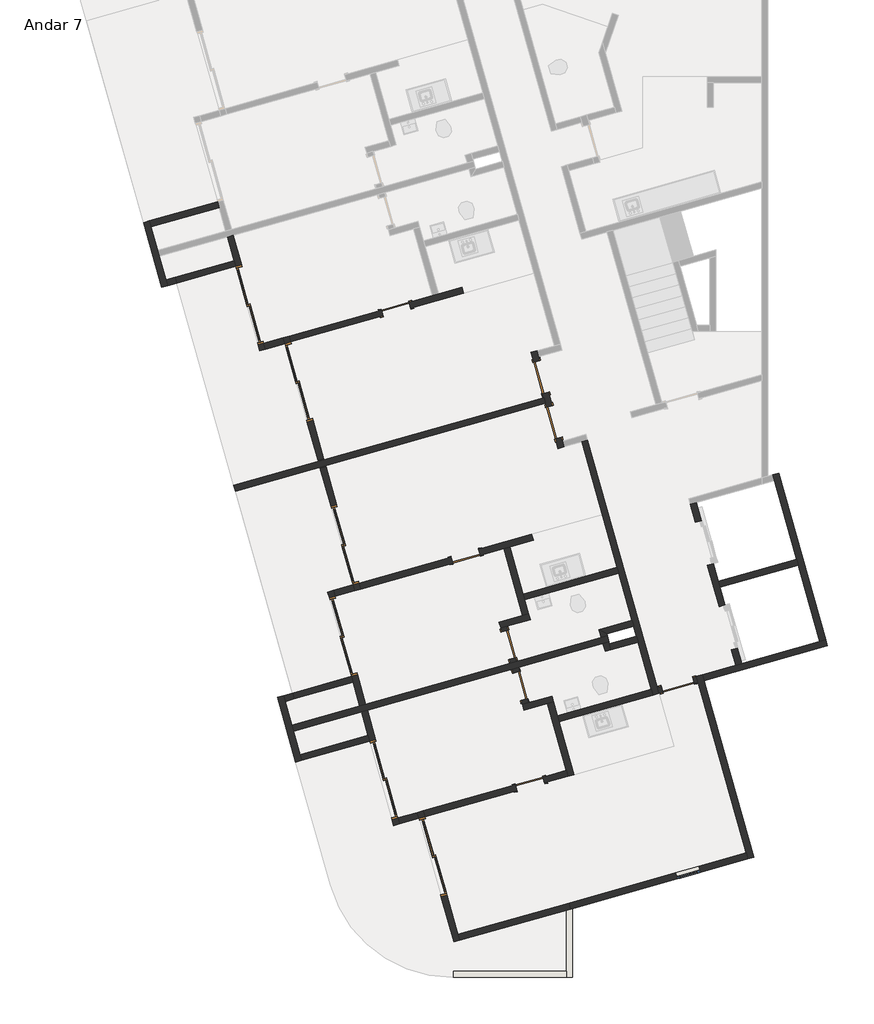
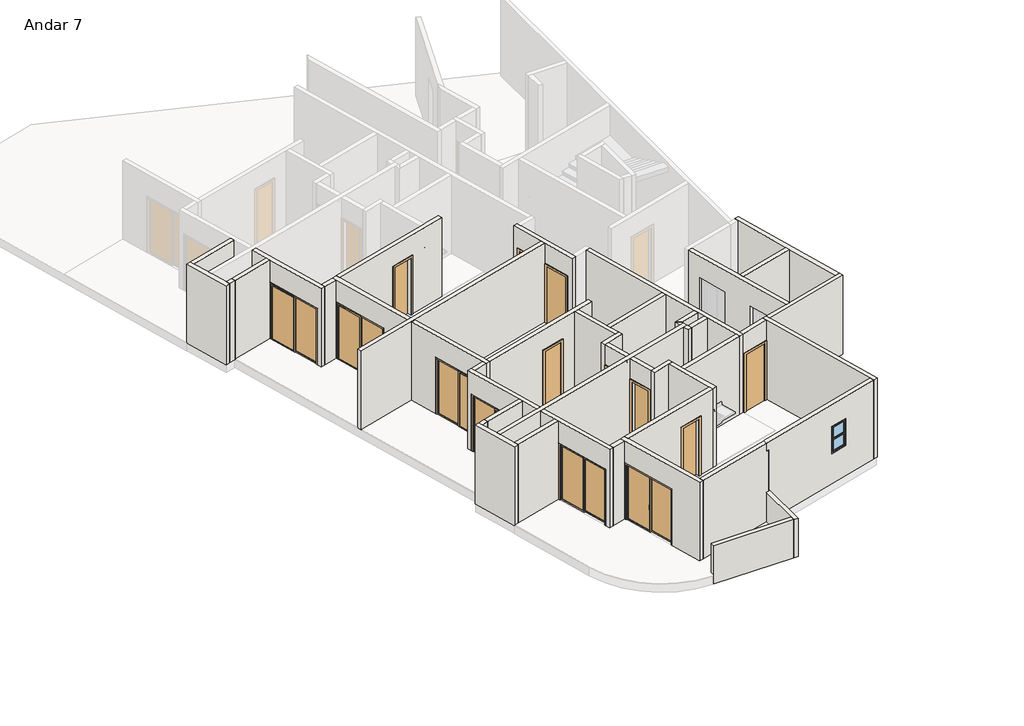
# One storey, part 1 of 3: 46 walls, 14 doors, 1 window.
"""IFC4 building model written with IfcOpenShell, lengths in millimetres."""

from ifc_helpers import new_model, si_unit, frame, origin, place, context, project, spatial, polyline, outline, extrude, faceted_brep, transform, mapped, element, save
from components import p2_80cm_9d4be4ef, p2_80cm_083652d6, p3_70cm_ef4d15e3, p3_70cm_0a698c7c, p4_correr_200cm_eaaa0877, p4_correr_200cm_830b8f20, bx_60cm_cef95a5c

model = new_model("IFC4")

# Units and contexts
model_context = context("Model", 3, world=origin())
ifc_project = project(units=[si_unit("LENGTHUNIT", "METRE", prefix="MILLI")], contexts=[model_context])

# Site, building, storey
site = spatial("IfcSite", under=ifc_project)
building = spatial("IfcBuilding", under=site)
storey = spatial("IfcBuildingStorey", under=building, Name="Andar 7", Elevation=71050.0)

# Doors
placement = place(None, origin())
p2_80cm_shape = p2_80cm_9d4be4ef(model_context)
element("IfcDoor", 1, ObjectType="M_Folha única1 : P2 - 80CM", at=placement, inside=storey, context=model_context, shape_type="MappedRepresentation", body=[
    mapped(p2_80cm_shape, transform((-80566.3456776, 19693.5423602, 71050.0), x_axis=(0.2717679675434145, -0.9623628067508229, 0.0), y_axis=(0.9623628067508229, 0.2717679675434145, 0.0), z_axis=(0.0, 0.0, 1.0))),
])
element("IfcDoor", 2, ObjectType="M_Folha única1 : P2 - 80CM", at=placement, inside=storey, context=model_context, shape_type="MappedRepresentation", body=[
    mapped(p2_80cm_shape, transform((-77213.6668366, 12144.847648, 71050.0), x_axis=(0.9623628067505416, 0.2717679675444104, 0.0), y_axis=(-0.2717679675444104, 0.9623628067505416, 0.0), z_axis=(0.0, 0.0, 1.0))),
])
p2_80cm_2_shape = p2_80cm_083652d6(model_context)
element("IfcDoor", 3, ObjectType="M_Folha única1 : P2 - 80CM", at=placement, inside=storey, context=model_context, shape_type="MappedRepresentation", body=[
    mapped(p2_80cm_2_shape, transform((-80253.8125149, 18586.8251325, 71050.0), x_axis=(-0.2717679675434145, 0.9623628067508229, 0.0), y_axis=(-0.9623628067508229, -0.2717679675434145, 0.0), z_axis=(0.0, 0.0, 1.0))),
])
p3_70cm_shape = p3_70cm_ef4d15e3(model_context)
element("IfcDoor", 4, ObjectType="M_Folha única1 : P3 - 70CM", at=placement, inside=storey, context=model_context, shape_type="MappedRepresentation", body=[
    mapped(p3_70cm_shape, transform((-84129.1775441, 21363.1168842, 71050.0), x_axis=(0.9623628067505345, 0.27176796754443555, 0.0), y_axis=(-0.27176796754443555, 0.9623628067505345, 0.0), z_axis=(0.0, 0.0, 1.0))),
])
element("IfcDoor", 5, ObjectType="M_Folha única1 : P3 - 70CM", at=placement, inside=storey, context=model_context, shape_type="MappedRepresentation", body=[
    mapped(p3_70cm_shape, transform((-80840.7851368, 9718.5269225, 71050.0), x_axis=(0.9623628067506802, 0.2717679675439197, 0.0), y_axis=(-0.2717679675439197, 0.9623628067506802, 0.0), z_axis=(0.0, 0.0, 1.0))),
])
element("IfcDoor", 6, ObjectType="M_Folha única1 : P3 - 70CM", at=placement, inside=storey, context=model_context, shape_type="MappedRepresentation", body=[
    mapped(p3_70cm_shape, transform((-81362.5862327, 13130.1209218, 71050.0), x_axis=(0.27176796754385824, -0.9623628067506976, 0.0), y_axis=(0.9623628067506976, 0.27176796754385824, 0.0), z_axis=(0.0, 0.0, 1.0))),
])
p3_70cm_2_shape = p3_70cm_0a698c7c(model_context)
element("IfcDoor", 7, ObjectType="M_Folha única1 : P3 - 70CM", at=placement, inside=storey, context=model_context, shape_type="MappedRepresentation", body=[
    mapped(p3_70cm_2_shape, transform((-81077.2298668, 12119.6399747, 71050.0), x_axis=(-0.27176796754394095, 0.9623628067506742, 0.0), y_axis=(-0.9623628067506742, -0.27176796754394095, 0.0), z_axis=(0.0, 0.0, 1.0))),
])
element("IfcDoor", 8, ObjectType="M_Folha única1 : P3 - 70CM", at=placement, inside=storey, context=model_context, shape_type="MappedRepresentation", body=[
    mapped(p3_70cm_2_shape, transform((-82417.0393485, 15300.2312016, 71050.0), x_axis=(0.9623628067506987, 0.2717679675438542, 0.0), y_axis=(-0.2717679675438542, 0.9623628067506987, 0.0), z_axis=(0.0, 0.0, 1.0))),
])
p4_correr_200cm_shape = p4_correr_200cm_eaaa0877(model_context)
element("IfcDoor", 9, ObjectType="Porta de correr dupla envidraçada sem revestimento : P4 - CORRER - 200CM", at=placement, inside=storey, context=model_context, shape_type="MappedRepresentation", body=[
    mapped(p4_correr_200cm_shape, transform((-86511.4049952, 19573.3416554, 71050.0), x_axis=(0.2717679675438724, -0.9623628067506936, 0.0), y_axis=(0.9623628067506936, 0.2717679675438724, 0.0), z_axis=(0.0, 0.0, 1.0))),
])
element("IfcDoor", 10, ObjectType="Porta de correr dupla envidraçada sem revestimento : P4 - CORRER - 200CM", at=placement, inside=storey, context=model_context, shape_type="MappedRepresentation", body=[
    mapped(p4_correr_200cm_shape, transform((-87717.4207223, 21466.8516126, 71050.0), x_axis=(0.2717679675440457, -0.9623628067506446, 0.0), y_axis=(0.9623628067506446, 0.2717679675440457, 0.0), z_axis=(0.0, 0.0, 1.0))),
])
element("IfcDoor", 11, ObjectType="Porta de correr dupla envidraçada sem revestimento : P4 - CORRER - 200CM", at=placement, inside=storey, context=model_context, shape_type="MappedRepresentation", body=[
    mapped(p4_correr_200cm_shape, transform((-84429.028315, 9822.2616509, 71050.0), x_axis=(-0.27176796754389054, 0.9623628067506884, 0.0), y_axis=(-0.9623628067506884, -0.27176796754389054, 0.0), z_axis=(0.0, 0.0, 1.0))),
])
element("IfcDoor", 12, ObjectType="Porta de correr dupla envidraçada sem revestimento : P4 - CORRER - 200CM", at=placement, inside=storey, context=model_context, shape_type="MappedRepresentation", body=[
    mapped(p4_correr_200cm_shape, transform((-83223.012588, 7928.7516937, 71050.0), x_axis=(-0.2717679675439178, 0.9623628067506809, 0.0), y_axis=(-0.9623628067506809, -0.2717679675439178, 0.0), z_axis=(0.0, 0.0, 1.0))),
])
p4_correr_200cm_2_shape = p4_correr_200cm_830b8f20(model_context)
element("IfcDoor", 13, ObjectType="Porta de correr dupla envidraçada sem revestimento : P4 - CORRER - 200CM", at=placement, inside=storey, context=model_context, shape_type="MappedRepresentation", body=[
    mapped(p4_correr_200cm_2_shape, transform((-85383.5679299, 15579.5360073, 71050.0), x_axis=(-0.2717679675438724, 0.9623628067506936, 0.0), y_axis=(-0.9623628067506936, -0.2717679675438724, 0.0), z_axis=(0.0, 0.0, 1.0))),
])
element("IfcDoor", 14, ObjectType="Porta de correr dupla envidraçada sem revestimento : P4 - CORRER - 200CM", at=placement, inside=storey, context=model_context, shape_type="MappedRepresentation", body=[
    mapped(p4_correr_200cm_2_shape, transform((-85420.9813965, 13334.8858955, 71050.0), x_axis=(-0.27176796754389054, 0.9623628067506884, 0.0), y_axis=(-0.9623628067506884, -0.27176796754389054, 0.0), z_axis=(0.0, 0.0, 1.0))),
])

# Walls
element("IfcWall", 15, ObjectType="Básica .15 - Externa", at=placement, inside=storey, context=model_context, shape_type="Brep", body=[
    faceted_brep([(-75344.9919691, 7919.3931149, 71050.0), (-76567.7484146, 12249.3196164, 71050.0), (-76608.5136097, 12393.6740374, 71050.0), (-76608.5136097, 12393.6740374, 73950.0), (-76567.7484146, 12249.3196164, 73950.0), (-75344.9919691, 7919.3931149, 73950.0), (-75489.3463901, 7878.6279198, 71050.0), (-75489.3463901, 7878.6279198, 73950.0), (-75530.1115852, 8022.9823408, 73950.0), (-76712.1028356, 12208.5544213, 73950.0), (-76752.8680308, 12352.9088423, 73950.0), (-76752.8680308, 12352.9088423, 71050.0), (-76712.1028356, 12208.5544213, 71050.0), (-75530.1115852, 8022.9823408, 71050.0)], [[[0, 1, 2, 3, 4, 5]], [[6, 7, 8, 9, 10, 11, 12, 13]], [[2, 1, 0, 6, 13, 12, 11]], [[5, 4, 3, 10, 9, 8, 7]], [[0, 5, 7, 6]], [[3, 2, 11, 10]]]),
])
element("IfcWall", 16, ObjectType="Básica .15 -  Interna", at=placement, inside=storey, context=model_context, shape_type="Brep", body=[
    faceted_brep([(-80529.815701, 19288.21464, 71050.0), (-80502.6389043, 19191.9783593, 71050.0), (-80461.8737092, 19047.6239383, 71050.0), (-80434.6969124, 18951.3876576, 71050.0), (-80434.6969124, 18951.3876576, 73150.0), (-80217.2825384, 18181.4974122, 73150.0), (-80217.2825384, 18181.4974122, 71050.0), (-80149.3405465, 17940.9067105, 71050.0), (-80149.3405465, 17940.9067105, 73950.0), (-80461.8737092, 19047.6239383, 73950.0), (-80502.6389043, 19191.9783593, 73950.0), (-80815.172067, 20298.695587, 73950.0), (-80815.172067, 20298.695587, 71050.0), (-80747.2300751, 20058.1048854, 71050.0), (-80747.2300751, 20058.1048854, 73150.0), (-80529.815701, 19288.21464, 73150.0), (-80290.3424914, 18992.1528527, 73150.0), (-80290.3424914, 18992.1528527, 71050.0), (-80385.46128, 19328.9798351, 71050.0), (-80385.46128, 19328.9798351, 73150.0), (-80602.8756541, 20098.8700805, 73150.0), (-80602.8756541, 20098.8700805, 71050.0), (-80630.0524508, 20195.1063612, 71050.0), (-80670.817646, 20339.4607822, 71050.0), (-80670.817646, 20339.4607822, 73950.0), (-80630.0524508, 20195.1063612, 73950.0), (-80045.7513206, 18126.0263266, 73950.0), (-80004.9861255, 17981.6719056, 73950.0), (-80004.9861255, 17981.6719056, 71050.0), (-80045.7513206, 18126.0263266, 71050.0), (-80072.9281174, 18222.2626073, 71050.0), (-80072.9281174, 18222.2626073, 73150.0)], [[[0, 1, 2, 3, 4, 5, 6, 7, 8, 9, 10, 11, 12, 13, 14, 15]], [[16, 17, 18, 19, 20, 21, 22, 23, 24, 25, 26, 27, 28, 29, 30, 31]], [[13, 12, 23, 22, 21]], [[18, 17, 3, 2, 1, 0]], [[30, 29, 28, 7, 6]], [[11, 10, 9, 8, 27, 26, 25, 24]], [[12, 11, 24, 23]], [[8, 7, 28, 27]], [[19, 18, 0, 15]], [[20, 19, 15, 14]], [[21, 20, 14, 13]], [[4, 3, 17, 16]], [[5, 4, 16, 31]], [[6, 5, 31, 30]]]),
])
element("IfcWall", 17, ObjectType="Básica .15 -  Interna", at=placement, inside=storey, context=model_context, shape_type="Brep", body=[
    faceted_brep([(-79571.9228624, 18103.967491, 71050.0), (-78702.2653663, 15024.4065094, 71050.0), (-78661.5001712, 14880.0520884, 71050.0), (-78335.3786101, 13725.2167203, 71050.0), (-78294.613415, 13580.8622993, 71050.0), (-78226.6714231, 13340.2715976, 71050.0), (-78185.906228, 13195.9171766, 71050.0), (-77818.8200634, 11896.0212586, 71050.0), (-77818.8200634, 11896.0212586, 73950.0), (-78185.906228, 13195.9171766, 73950.0), (-78226.6714231, 13340.2715976, 73950.0), (-78294.613415, 13580.8622993, 73950.0), (-78335.3786101, 13725.2167203, 73950.0), (-78661.5001712, 14880.0520884, 73950.0), (-78702.2653663, 15024.4065094, 73950.0), (-79571.9228624, 18103.967491, 73950.0), (-79427.5684414, 18144.7326862, 71050.0), (-79427.5684414, 18144.7326862, 73950.0), (-77715.2308375, 12081.1408747, 73950.0), (-77674.4656424, 11936.7864537, 73950.0), (-77674.4656424, 11936.7864537, 71050.0), (-77715.2308375, 12081.1408747, 71050.0)], [[[0, 1, 2, 3, 4, 5, 6, 7, 8, 9, 10, 11, 12, 13, 14, 15]], [[16, 17, 18, 19, 20, 21]], [[7, 6, 5, 4, 3, 2, 1, 0, 16, 21, 20]], [[15, 14, 13, 12, 11, 10, 9, 8, 19, 18, 17]], [[0, 15, 17, 16]], [[8, 7, 20, 19]]]),
])
element("IfcWall", 18, ObjectType="Básica .15 -  Interna", at=placement, inside=storey, context=model_context, shape_type="Brep", body=[
    faceted_brep([(-85017.5646639, 11630.3683862, 73950.0), (-85180.6254444, 12207.7860702, 73950.0), (-85221.3906395, 12352.1404912, 73950.0), (-85805.6917697, 14421.2205257, 73950.0), (-85805.6917697, 14421.2205257, 71050.0), (-85764.9265746, 14276.8661047, 71050.0), (-85764.9265746, 14276.8661047, 73150.0), (-85221.3906395, 12352.1404912, 73150.0), (-85221.3906395, 12352.1404912, 71050.0), (-85180.6254444, 12207.7860702, 71050.0), (-85017.5646639, 11630.3683862, 71050.0), (-85661.3373487, 14461.9857209, 73950.0), (-85620.5721536, 14317.6312998, 73950.0), (-84873.2102428, 11671.1335813, 73950.0), (-84873.2102428, 11671.1335813, 71050.0), (-85077.0362185, 12392.9056863, 71050.0), (-85077.0362185, 12392.9056863, 73150.0), (-85620.5721536, 14317.6312998, 73150.0), (-85620.5721536, 14317.6312998, 71050.0), (-85661.3373487, 14461.9857209, 71050.0)], [[[0, 1, 2, 3, 4, 5, 6, 7, 8, 9, 10]], [[11, 12, 13, 14, 15, 16, 17, 18, 19]], [[4, 19, 18, 5]], [[14, 10, 9, 8, 15]], [[3, 2, 1, 0, 13, 12, 11]], [[4, 3, 11, 19]], [[0, 10, 14, 13]], [[17, 6, 5, 18]], [[6, 17, 16, 7]], [[7, 16, 15, 8]]]),
])
element("IfcWall", 19, ObjectType="Básica .15 -  Interna", at=placement, inside=storey, context=model_context, shape_type="Brep", body=[
    faceted_brep([(-82710.8886682, 5839.2890616, 73950.0), (-83566.957766, 8870.7319029, 73950.0), (-83607.7229611, 9015.0863239, 73950.0), (-83607.7229611, 9015.0863239, 71050.0), (-83566.957766, 8870.7319029, 71050.0), (-83566.957766, 8870.7319029, 73150.0), (-83023.4218309, 6946.0062894, 73150.0), (-83023.4218309, 6946.0062894, 71050.0), (-82710.8886682, 5839.2890616, 71050.0), (-83463.3685401, 9055.851519, 73950.0), (-83422.603345, 8911.497098, 73950.0), (-82607.2994424, 6024.4086777, 73950.0), (-82566.5342472, 5880.0542567, 73950.0), (-82566.5342472, 5880.0542567, 71050.0), (-82607.2994424, 6024.4086777, 71050.0), (-82879.0674099, 6986.7714845, 71050.0), (-82879.0674099, 6986.7714845, 73150.0), (-83422.603345, 8911.497098, 73150.0), (-83422.603345, 8911.497098, 71050.0), (-83463.3685401, 9055.851519, 71050.0)], [[[0, 1, 2, 3, 4, 5, 6, 7, 8]], [[9, 10, 11, 12, 13, 14, 15, 16, 17, 18, 19]], [[3, 19, 18, 4]], [[13, 8, 7, 15, 14]], [[2, 1, 0, 12, 11, 10, 9]], [[3, 2, 9, 19]], [[0, 8, 13, 12]], [[17, 5, 4, 18]], [[5, 17, 16, 6]], [[6, 16, 15, 7]]]),
])
element("IfcWall", 20, ObjectType="Básica .15 -  Interna", at=placement, inside=storey, context=model_context, shape_type="Brep", body=[
    faceted_brep([(-86046.8404698, 17652.2925145, 71050.0), (-86046.8404698, 17652.2925145, 73950.0), (-86855.3501733, 20515.3218646, 73950.0), (-86896.1153684, 20659.6762856, 73950.0), (-86896.1153684, 20659.6762856, 71050.0), (-86855.3501733, 20515.3218646, 71050.0), (-86855.3501733, 20515.3218646, 73150.0), (-86311.8142382, 18590.596251, 73150.0), (-86311.8142382, 18590.596251, 71050.0), (-85902.4860488, 17693.0577096, 73950.0), (-85902.4860488, 17693.0577096, 71050.0), (-86167.4598172, 18631.3614462, 71050.0), (-86167.4598172, 18631.3614462, 73150.0), (-86710.9957523, 20556.0870597, 73150.0), (-86710.9957523, 20556.0870597, 71050.0), (-86751.7609474, 20700.4414807, 71050.0), (-86751.7609474, 20700.4414807, 73950.0), (-86710.9957523, 20556.0870597, 73950.0)], [[[0, 1, 2, 3, 4, 5, 6, 7, 8]], [[9, 10, 11, 12, 13, 14, 15, 16, 17]], [[10, 0, 8, 11]], [[4, 15, 14, 5]], [[1, 0, 10, 9]], [[3, 2, 1, 9, 17, 16]], [[4, 3, 16, 15]], [[7, 12, 11, 8]], [[12, 7, 6, 13]], [[13, 6, 5, 14]]]),
])
element("IfcWall", 21, ObjectType="Básica .15 - Externa", at=placement, inside=storey, context=model_context, shape_type="Brep", body=[
    faceted_brep([(-79945.4990038, 6620.2256515, 72150.0), (-79945.4990038, 6620.2256515, 71050.0), (-79945.4990038, 6620.2256515, 70750.0), (-79945.4990038, 5119.4122055, 70750.0), (-79945.4990038, 4969.4122055, 70750.0), (-79945.4990038, 4969.4122055, 72150.0), (-79945.4990038, 5119.4122055, 72150.0), (-79795.4990038, 6662.5851389, 70750.0), (-79795.4990038, 6662.5851389, 72150.0), (-79795.4990038, 4969.4122055, 72150.0), (-79795.4990038, 4969.4122055, 70750.0), (-79850.1164062, 6647.1613711, 70750.0)], [[[0, 1, 2, 3, 4, 5, 6]], [[7, 8, 9, 10]], [[4, 3, 2, 11, 7, 10]], [[0, 6, 5, 9, 8]], [[5, 4, 10, 9]], [[0, 8, 7, 11, 2, 1]]]),
])
element("IfcWall", 22, ObjectType="Básica .15 - Externa", at=placement, inside=storey, context=model_context, shape_type="SweptSolid", body=[
    extrude(outline(polyline([(-82713.5540687, 5119.4122055), (-79945.4990038, 5119.4122055), (-79945.4990038, 4969.4122055), (-82713.5540687, 4969.4122055), (-82713.5540687, 5119.4122055)])), frame((0.0, 0.0, 70750.0), z_axis=(0.0, 0.0, 1.0), x_axis=(1.0, 0.0, 0.0)), (0.0, 0.0, 1.0), 1400.0),
])
element("IfcWall", 23, ObjectType="Básica .15 - Externa", at=placement, inside=storey, context=model_context, shape_type="Brep", body=[
    faceted_brep([(-73581.8825825, 13248.3842954, 71050.0), (-73726.2370035, 13207.6191002, 71050.0), (-75646.150803, 12665.442005, 71050.0), (-75790.505224, 12624.6768098, 71050.0), (-76608.5136097, 12393.6740374, 71050.0), (-76608.5136097, 12393.6740374, 73950.0), (-75790.505224, 12624.6768098, 73950.0), (-75646.150803, 12665.442005, 73950.0), (-73726.2370035, 13207.6191002, 73950.0), (-73581.8825825, 13248.3842954, 73950.0), (-73541.1173874, 13104.0298743, 71050.0), (-73541.1173874, 13104.0298743, 73950.0), (-76567.7484146, 12249.3196164, 73950.0), (-76567.7484146, 12249.3196164, 71050.0)], [[[0, 1, 2, 3, 4, 5, 6, 7, 8, 9]], [[10, 11, 12, 13]], [[4, 3, 2, 1, 0, 10, 13]], [[9, 8, 7, 6, 5, 12, 11]], [[0, 9, 11, 10]], [[5, 4, 13, 12]]]),
])
element("IfcWall", 24, ObjectType="Básica .15 - Externa", at=placement, inside=storey, context=model_context, shape_type="Brep", body=[
    faceted_brep([(-74881.2508656, 17297.6610289, 71050.0), (-74840.4856705, 17153.3066079, 71050.0), (-74296.9497354, 15228.5809944, 71050.0), (-74256.1845402, 15084.2265734, 71050.0), (-73726.2370035, 13207.6191002, 71050.0), (-73726.2370035, 13207.6191002, 73950.0), (-74256.1845402, 15084.2265734, 73950.0), (-74296.9497354, 15228.5809944, 73950.0), (-74840.4856705, 17153.3066079, 73950.0), (-74881.2508656, 17297.6610289, 73950.0), (-74736.8964446, 17338.426224, 71050.0), (-74736.8964446, 17338.426224, 73950.0), (-73581.8825825, 13248.3842954, 73950.0), (-73581.8825825, 13248.3842954, 71050.0)], [[[0, 1, 2, 3, 4, 5, 6, 7, 8, 9]], [[10, 11, 12, 13]], [[4, 3, 2, 1, 0, 10, 13]], [[9, 8, 7, 6, 5, 12, 11]], [[0, 9, 11, 10]], [[5, 4, 13, 12]]]),
])
element("IfcWall", 25, ObjectType="Básica .15 -  Interna", at=placement, inside=storey, context=model_context, shape_type="Brep", body=[
    faceted_brep([(-76483.167581, 15077.4768805, 71050.0), (-76197.8112151, 14066.9959334, 71050.0), (-76197.8112151, 14066.9959334, 73175.0), (-75898.8664508, 13008.396846, 73175.0), (-75898.8664508, 13008.396846, 71050.0), (-75790.505224, 12624.6768098, 71050.0), (-75790.505224, 12624.6768098, 73950.0), (-76904.7538909, 16570.3643175, 73950.0), (-76904.7538909, 16570.3643175, 71050.0), (-76782.1123453, 16136.075968, 71050.0), (-76782.1123453, 16136.075968, 73175.0), (-76483.167581, 15077.4768805, 73175.0), (-76053.4567941, 14107.7611286, 73175.0), (-76053.4567941, 14107.7611286, 71050.0), (-76176.0983397, 14542.0494781, 71050.0), (-76216.8635348, 14686.4038991, 71050.0), (-76338.81316, 15118.2420757, 71050.0), (-76338.81316, 15118.2420757, 73175.0), (-76637.7579243, 16176.8411631, 73175.0), (-76637.7579243, 16176.8411631, 71050.0), (-76760.3994699, 16611.1295126, 71050.0), (-76760.3994699, 16611.1295126, 73950.0), (-76216.8635348, 14686.4038991, 73950.0), (-76176.0983397, 14542.0494781, 73950.0), (-75646.150803, 12665.442005, 73950.0), (-75646.150803, 12665.442005, 71050.0), (-75754.5120298, 13049.1620412, 71050.0), (-75754.5120298, 13049.1620412, 73175.0)], [[[0, 1, 2, 3, 4, 5, 6, 7, 8, 9, 10, 11]], [[12, 13, 14, 15, 16, 17, 18, 19, 20, 21, 22, 23, 24, 25, 26, 27]], [[9, 8, 20, 19]], [[26, 25, 5, 4]], [[16, 15, 14, 13, 1, 0]], [[7, 6, 24, 23, 22, 21]], [[8, 7, 21, 20]], [[6, 5, 25, 24]], [[4, 3, 27, 26]], [[2, 1, 13, 12]], [[3, 2, 12, 27]], [[19, 18, 10, 9]], [[17, 16, 0, 11]], [[18, 17, 11, 10]]]),
])
element("IfcWall", 26, ObjectType="Básica .15 -  Interna", at=placement, inside=storey, context=model_context, shape_type="SweptSolid", body=[
    extrude(outline(polyline([(-74256.1845402, 15084.2265734), (-76176.0983397, 14542.0494781), (-76216.8635348, 14686.4038991), (-74296.9497354, 15228.5809944), (-74256.1845402, 15084.2265734)])), frame((0.0, 0.0, 71050.0), z_axis=(0.0, 0.0, 1.0), x_axis=(1.0, 0.0, 0.0)), (0.0, 0.0, 1.0), 2900.0),
])
element("IfcWall", 27, ObjectType="Básica .15 -  Interna", at=placement, inside=storey, context=model_context, shape_type="Brep", body=[
    faceted_brep([(-82566.5342472, 5880.0542567, 71050.0), (-79945.4990038, 6620.2256515, 71050.0), (-79850.1164062, 6647.1613711, 71050.0), (-79850.1164062, 6647.1613711, 73650.0), (-79945.4990038, 6620.2256515, 73650.0), (-79945.4990038, 6620.2256515, 73950.0), (-82566.5342472, 5880.0542567, 73950.0), (-82607.2994424, 6024.4086777, 71050.0), (-82607.2994424, 6024.4086777, 73950.0), (-79945.4990038, 6776.0920243, 73950.0), (-79945.4990038, 6776.0920243, 73650.0), (-79890.8816014, 6791.5157921, 73650.0), (-79890.8816014, 6791.5157921, 71050.0), (-79945.4990038, 6776.0920243, 71050.0)], [[[0, 1, 2, 3, 4, 5, 6]], [[7, 8, 9, 10, 11, 12, 13]], [[2, 1, 0, 7, 13, 12]], [[6, 5, 9, 8]], [[0, 6, 8, 7]], [[2, 12, 11, 3]], [[10, 4, 3, 11]], [[5, 4, 10, 9]]]),
])
element("IfcWall", 28, ObjectType="Básica .15 -  Interna", at=placement, inside=storey, context=model_context, shape_type="Brep", body=[
    faceted_brep([(-85221.3906395, 12352.1404912, 71050.0), (-86668.7560772, 11943.4094383, 71050.0), (-86668.7560772, 11943.4094383, 73950.0), (-85221.3906395, 12352.1404912, 73950.0), (-85221.3906395, 12352.1404912, 73150.0), (-85180.6254444, 12207.7860702, 71050.0), (-85180.6254444, 12207.7860702, 73950.0), (-86627.9908821, 11799.0550173, 73950.0), (-86627.9908821, 11799.0550173, 71050.0)], [[[0, 1, 2, 3, 4]], [[5, 6, 7, 8]], [[1, 0, 5, 8]], [[2, 1, 8, 7]], [[3, 2, 7, 6]], [[0, 4, 3, 6, 5]]]),
])
element("IfcWall", 29, ObjectType="Básica .15 - Externa", at=placement, inside=storey, context=model_context, shape_type="Brep", body=[
    faceted_brep([(-86444.4738537, 10292.215871, 71050.0), (-86485.2390488, 10436.570292, 71050.0), (-86648.2998293, 11013.987976, 71050.0), (-86689.0650245, 11158.342397, 71050.0), (-86852.125805, 11735.7600811, 71050.0), (-86892.8910001, 11880.1145021, 71050.0), (-86892.8910001, 11880.1145021, 73950.0), (-86852.125805, 11735.7600811, 73950.0), (-86689.0650245, 11158.342397, 73950.0), (-86648.2998293, 11013.987976, 73950.0), (-86485.2390488, 10436.570292, 73950.0), (-86444.4738537, 10292.215871, 73950.0), (-86588.8282747, 10251.4506758, 71050.0), (-86588.8282747, 10251.4506758, 73950.0), (-87037.2454211, 11839.349307, 73950.0), (-87037.2454211, 11839.349307, 71050.0)], [[[0, 1, 2, 3, 4, 5, 6, 7, 8, 9, 10, 11]], [[12, 13, 14, 15]], [[5, 4, 3, 2, 1, 0, 12, 15]], [[11, 10, 9, 8, 7, 6, 14, 13]], [[6, 5, 15, 14]], [[0, 11, 13, 12]]]),
])
element("IfcWall", 30, ObjectType="Básica .15 -  Interna", at=placement, inside=storey, context=model_context, shape_type="Brep", body=[
    faceted_brep([(-86444.4738537, 10292.215871, 71050.0), (-84772.9734931, 10764.2418601, 71050.0), (-84772.9734931, 10764.2418601, 73150.0), (-84772.9734931, 10764.2418601, 73950.0), (-86444.4738537, 10292.215871, 73950.0), (-86485.2390488, 10436.570292, 71050.0), (-86485.2390488, 10436.570292, 73950.0), (-84813.7386882, 10908.5962811, 73950.0), (-84813.7386882, 10908.5962811, 71050.0)], [[[0, 1, 2, 3, 4]], [[5, 6, 7, 8]], [[1, 0, 5, 8]], [[4, 3, 7, 6]], [[0, 4, 6, 5]], [[3, 2, 1, 8, 7]]]),
])
element("IfcWall", 31, ObjectType="Básica .15 - Externa", at=placement, inside=storey, context=model_context, shape_type="Brep", body=[
    faceted_brep([(-89732.866261, 21936.8058326, 71050.0), (-89773.6314561, 22081.1602536, 71050.0), (-89936.6922366, 22658.5779377, 71050.0), (-89977.4574318, 22802.9323587, 71050.0), (-90140.5182123, 23380.3500428, 71050.0), (-90181.2834074, 23524.7044638, 71050.0), (-90181.2834074, 23524.7044638, 73950.0), (-90140.5182123, 23380.3500428, 73950.0), (-89977.4574318, 22802.9323587, 73950.0), (-89936.6922366, 22658.5779377, 73950.0), (-89773.6314561, 22081.1602536, 73950.0), (-89732.866261, 21936.8058326, 73950.0), (-89877.220682, 21896.0406375, 71050.0), (-89877.220682, 21896.0406375, 73950.0), (-90325.6378284, 23483.9392686, 73950.0), (-90325.6378284, 23483.9392686, 71050.0)], [[[0, 1, 2, 3, 4, 5, 6, 7, 8, 9, 10, 11]], [[12, 13, 14, 15]], [[5, 4, 3, 2, 1, 0, 12, 15]], [[11, 10, 9, 8, 7, 6, 14, 13]], [[0, 11, 13, 12]], [[6, 5, 15, 14]]]),
])
element("IfcWall", 32, ObjectType="Básica .15 -  Interna", at=placement, inside=storey, context=model_context, shape_type="Brep", body=[
    faceted_brep([(-88102.1310955, 22553.1862428, 71050.0), (-89549.4965332, 22144.4551899, 71050.0), (-89549.4965332, 22144.4551899, 73950.0), (-88102.1310955, 22553.1862428, 73950.0), (-88061.3659003, 22408.8318218, 71050.0), (-88061.3659003, 22408.8318218, 73150.0), (-88061.3659003, 22408.8318218, 73950.0), (-89508.731338, 22000.1007688, 73950.0), (-89508.731338, 22000.1007688, 71050.0)], [[[0, 1, 2, 3]], [[4, 5, 6, 7, 8]], [[1, 0, 4, 8]], [[2, 1, 8, 7]], [[3, 2, 7, 6]], [[0, 3, 6, 5, 4]]]),
])
element("IfcWall", 33, ObjectType="Básica .15 -  Interna", at=placement, inside=storey, context=model_context, shape_type="Brep", body=[
    faceted_brep([(-90140.5182123, 23380.3500428, 71050.0), (-88469.0178517, 23852.3760319, 71050.0), (-88469.0178517, 23852.3760319, 73950.0), (-90140.5182123, 23380.3500428, 73950.0), (-90181.2834074, 23524.7044638, 71050.0), (-90181.2834074, 23524.7044638, 73950.0), (-88509.7830468, 23996.7304529, 73950.0), (-88509.7830468, 23996.7304529, 73150.0), (-88509.7830468, 23996.7304529, 71050.0)], [[[0, 1, 2, 3]], [[4, 5, 6, 7, 8]], [[1, 0, 4, 8]], [[3, 2, 6, 5]], [[0, 3, 5, 4]], [[2, 1, 8, 7, 6]]]),
])
element("IfcWall", 34, ObjectType="Básica .15 -  Interna", at=placement, inside=storey, context=model_context, shape_type="Brep", body=[
    faceted_brep([(-86896.1153684, 20659.6762856, 71050.0), (-87373.4755442, 20524.8714034, 71050.0), (-87373.4755442, 20524.8714034, 73150.0), (-87373.4755442, 20524.8714034, 73950.0), (-86896.1153684, 20659.6762856, 73950.0), (-86855.3501733, 20515.3218646, 71050.0), (-86855.3501733, 20515.3218646, 73150.0), (-86855.3501733, 20515.3218646, 73950.0), (-87332.7103491, 20380.5169824, 73950.0), (-87332.7103491, 20380.5169824, 71050.0)], [[[0, 1, 2, 3, 4]], [[5, 6, 7, 8, 9]], [[1, 0, 5, 9]], [[4, 3, 8, 7]], [[0, 4, 7, 6, 5]], [[3, 2, 1, 9, 8]]]),
])
element("IfcWall", 35, ObjectType="Básica .15 -  Interna", at=placement, inside=storey, context=model_context, shape_type="Brep", body=[
    faceted_brep([(-83607.7229611, 9015.0863239, 71050.0), (-84085.083137, 8880.2814417, 71050.0), (-84085.083137, 8880.2814417, 73150.0), (-84085.083137, 8880.2814417, 73950.0), (-83607.7229611, 9015.0863239, 73950.0), (-83566.957766, 8870.7319029, 71050.0), (-83566.957766, 8870.7319029, 73150.0), (-83566.957766, 8870.7319029, 73950.0), (-84044.3179418, 8735.9270207, 73950.0), (-84044.3179418, 8735.9270207, 71050.0)], [[[0, 1, 2, 3, 4]], [[5, 6, 7, 8, 9]], [[1, 0, 5, 9]], [[4, 3, 8, 7]], [[3, 2, 1, 9, 8]], [[0, 4, 7, 6, 5]]]),
])
element("IfcWall", 36, ObjectType="Básica .15 -  Interna", at=placement, inside=storey, context=model_context, shape_type="Brep", body=[
    faceted_brep([(-85183.9771729, 14596.790603, 71050.0), (-85661.3373487, 14461.9857209, 71050.0), (-85661.3373487, 14461.9857209, 73950.0), (-85183.9771729, 14596.790603, 73950.0), (-85183.9771729, 14596.790603, 73150.0), (-85143.2119778, 14452.436182, 71050.0), (-85143.2119778, 14452.436182, 73950.0), (-85620.5721536, 14317.6312998, 73950.0), (-85620.5721536, 14317.6312998, 73150.0), (-85620.5721536, 14317.6312998, 71050.0)], [[[0, 1, 2, 3, 4]], [[5, 6, 7, 8, 9]], [[1, 0, 5, 9]], [[3, 2, 7, 6]], [[2, 1, 9, 8, 7]], [[0, 4, 3, 6, 5]]]),
])
element("IfcWall", 37, ObjectType="Básica .15 -  Interna", at=placement, inside=storey, context=model_context, shape_type="Brep", body=[
    faceted_brep([(-87477.0647701, 20339.7517872, 73950.0), (-88061.3659003, 22408.8318218, 73950.0), (-88102.1310955, 22553.1862428, 73950.0), (-88265.191876, 23130.6039268, 73950.0), (-88265.191876, 23130.6039268, 71050.0), (-88102.1310955, 22553.1862428, 71050.0), (-88061.3659003, 22408.8318218, 71050.0), (-88061.3659003, 22408.8318218, 73150.0), (-87517.8299653, 20484.1062083, 73150.0), (-87517.8299653, 20484.1062083, 71050.0), (-87477.0647701, 20339.7517872, 71050.0), (-88120.837455, 23171.369122, 73950.0), (-87373.4755442, 20524.8714034, 73950.0), (-87332.7103491, 20380.5169824, 73950.0), (-87332.7103491, 20380.5169824, 71050.0), (-87373.4755442, 20524.8714034, 71050.0), (-87373.4755442, 20524.8714034, 73150.0), (-87917.0114793, 22449.5970169, 73150.0), (-87917.0114793, 22449.5970169, 71050.0), (-88120.837455, 23171.369122, 71050.0)], [[[0, 1, 2, 3, 4, 5, 6, 7, 8, 9, 10]], [[11, 12, 13, 14, 15, 16, 17, 18, 19]], [[14, 10, 9, 15]], [[4, 19, 18, 6, 5]], [[3, 2, 1, 0, 13, 12, 11]], [[0, 10, 14, 13]], [[4, 3, 11, 19]], [[8, 16, 15, 9]], [[16, 8, 7, 17]], [[17, 7, 6, 18]]]),
])
element("IfcWall", 38, ObjectType="Básica .15 -  Interna", at=placement, inside=storey, context=model_context, shape_type="Brep", body=[
    faceted_brep([(-85143.2119778, 14452.436182, 73950.0), (-85183.9771729, 14596.790603, 73950.0), (-85992.4868763, 17459.8199531, 73950.0), (-85992.4868763, 17459.8199531, 71050.0), (-85727.513108, 16521.5162165, 71050.0), (-85727.513108, 16521.5162165, 73150.0), (-85183.9771729, 14596.790603, 73150.0), (-85183.9771729, 14596.790603, 71050.0), (-85143.2119778, 14452.436182, 71050.0), (-85848.1324553, 17500.5851482, 73950.0), (-85039.6227519, 14637.5557982, 73950.0), (-84998.8575568, 14493.2013772, 73950.0), (-84998.8575568, 14493.2013772, 71050.0), (-85039.6227519, 14637.5557982, 71050.0), (-85039.6227519, 14637.5557982, 73150.0), (-85583.158687, 16562.2814117, 73150.0), (-85583.158687, 16562.2814117, 71050.0), (-85848.1324553, 17500.5851482, 71050.0)], [[[0, 1, 2, 3, 4, 5, 6, 7, 8]], [[9, 10, 11, 12, 13, 14, 15, 16, 17]], [[3, 17, 16, 4]], [[12, 8, 7, 13]], [[2, 1, 0, 11, 10, 9]], [[3, 2, 9, 17]], [[0, 8, 12, 11]], [[15, 5, 4, 16]], [[5, 15, 14, 6]], [[6, 14, 13, 7]]]),
])
element("IfcWall", 39, ObjectType="Básica .15 -  Interna", at=placement, inside=storey, context=model_context, shape_type="SweptSolid", body=[
    extrude(outline(polyline([(-80461.8737092, 19047.6239383), (-88068.36111, 16899.5778931), (-88109.1263052, 17043.9323141), (-80502.6389043, 19191.9783593), (-80461.8737092, 19047.6239383)])), frame((0.0, 0.0, 71050.0), z_axis=(0.0, 0.0, 1.0), x_axis=(1.0, 0.0, 0.0)), (0.0, 0.0, 1.0), 2900.0),
])
element("IfcWall", 40, ObjectType="Básica .15 -  Interna", at=placement, inside=storey, context=model_context, shape_type="Brep", body=[
    faceted_brep([(-78945.0553533, 13345.2242614, 71050.0), (-81168.1134369, 12717.4402563, 71050.0), (-81312.4678579, 12676.6750612, 71050.0), (-84873.2102428, 11671.1335813, 71050.0), (-85017.5646639, 11630.3683862, 71050.0), (-86689.0650245, 11158.342397, 71050.0), (-86689.0650245, 11158.342397, 73950.0), (-85017.5646639, 11630.3683862, 73950.0), (-84873.2102428, 11671.1335813, 73950.0), (-81312.4678579, 12676.6750612, 73950.0), (-81168.1134369, 12717.4402563, 73950.0), (-78945.0553533, 13345.2242614, 73950.0), (-78904.2901581, 13200.8698403, 71050.0), (-78904.2901581, 13200.8698403, 73950.0), (-81127.3482417, 12573.0858353, 73950.0), (-81271.7026627, 12532.3206402, 73950.0), (-84832.4450477, 11526.7791603, 73950.0), (-84976.7994687, 11486.0139651, 73950.0), (-86648.2998293, 11013.987976, 73950.0), (-86648.2998293, 11013.987976, 71050.0), (-84976.7994687, 11486.0139651, 71050.0), (-84832.4450477, 11526.7791603, 71050.0), (-81271.7026627, 12532.3206402, 71050.0), (-81127.3482417, 12573.0858353, 71050.0)], [[[0, 1, 2, 3, 4, 5, 6, 7, 8, 9, 10, 11]], [[12, 13, 14, 15, 16, 17, 18, 19, 20, 21, 22, 23]], [[5, 4, 3, 2, 1, 0, 12, 23, 22, 21, 20, 19]], [[11, 10, 9, 8, 7, 6, 18, 17, 16, 15, 14, 13]], [[0, 11, 13, 12]], [[6, 5, 19, 18]]]),
])
element("IfcWall", 41, ObjectType="Básica .15 -  Interna", at=placement, inside=storey, context=model_context, shape_type="Brep", body=[
    faceted_brep([(-84188.6723628, 8695.1618256, 73950.0), (-84772.9734931, 10764.2418601, 73950.0), (-84813.7386882, 10908.5962811, 73950.0), (-84976.7994687, 11486.0139651, 73950.0), (-84976.7994687, 11486.0139651, 71050.0), (-84813.7386882, 10908.5962811, 71050.0), (-84772.9734931, 10764.2418601, 71050.0), (-84772.9734931, 10764.2418601, 73150.0), (-84229.437558, 8839.5162466, 73150.0), (-84229.437558, 8839.5162466, 71050.0), (-84188.6723628, 8695.1618256, 71050.0), (-84832.4450477, 11526.7791603, 73950.0), (-84085.083137, 8880.2814417, 73950.0), (-84044.3179418, 8735.9270207, 73950.0), (-84044.3179418, 8735.9270207, 71050.0), (-84085.083137, 8880.2814417, 71050.0), (-84085.083137, 8880.2814417, 73150.0), (-84628.6190721, 10805.0070552, 73150.0), (-84628.6190721, 10805.0070552, 71050.0), (-84832.4450477, 11526.7791603, 71050.0)], [[[0, 1, 2, 3, 4, 5, 6, 7, 8, 9, 10]], [[11, 12, 13, 14, 15, 16, 17, 18, 19]], [[14, 10, 9, 15]], [[4, 19, 18, 6, 5]], [[3, 2, 1, 0, 13, 12, 11]], [[0, 10, 14, 13]], [[4, 3, 11, 19]], [[17, 7, 6, 18]], [[7, 17, 16, 8]], [[8, 16, 15, 9]]]),
])
element("IfcWall", 42, ObjectType="Básica .15 - Externa", at=placement, inside=storey, context=model_context, shape_type="Brep", body=[
    faceted_brep([(-79850.1164062, 6647.1613711, 73650.0), (-79850.1164062, 6647.1613711, 71050.0), (-75489.3463901, 7878.6279198, 71050.0), (-75489.3463901, 7878.6279198, 73950.0), (-79850.1164062, 6647.1613711, 73950.0), (-79945.4990038, 6620.2256515, 73950.0), (-79945.4990038, 6620.2256515, 73650.0), (-76649.6431667, 7550.9640756, 72150.0), (-77227.0608508, 7387.9032951, 72150.0), (-77227.0608508, 7387.9032951, 73150.0), (-76649.6431667, 7550.9640756, 73150.0), (-79890.8816014, 6791.5157921, 71050.0), (-79890.8816014, 6791.5157921, 73650.0), (-79945.4990038, 6776.0920243, 73650.0), (-79945.4990038, 6776.0920243, 73950.0), (-79890.8816014, 6791.5157921, 73950.0), (-75530.1115852, 8022.9823408, 73950.0), (-75530.1115852, 8022.9823408, 71050.0), (-76690.4083619, 7695.3184966, 72150.0), (-76690.4083619, 7695.3184966, 73150.0), (-77267.8260459, 7532.2577161, 73150.0), (-77267.8260459, 7532.2577161, 72150.0)], [[[0, 1, 2, 3, 4, 5, 6], [7, 8, 9, 10]], [[11, 12, 13, 14, 15, 16, 17], [18, 19, 20, 21]], [[2, 1, 11, 17]], [[5, 4, 3, 16, 15, 14]], [[18, 21, 8, 7]], [[21, 20, 9, 8]], [[20, 19, 10, 9]], [[19, 18, 7, 10]], [[3, 2, 17, 16]], [[0, 12, 11, 1]], [[6, 13, 12, 0]], [[6, 5, 14, 13]]]),
])
element("IfcWall", 43, ObjectType="Básica .15 - Externa", at=placement, inside=storey, context=model_context, shape_type="SweptSolid", body=[
    extrude(outline(polyline([(-89773.6314561, 22081.1602536), (-89549.4965332, 22144.4551899), (-89508.731338, 22000.1007688), (-89732.866261, 21936.8058326), (-89773.6314561, 22081.1602536)])), frame((0.0, 0.0, 71050.0), z_axis=(0.0, 0.0, 1.0), x_axis=(1.0, 0.0, 0.0)), (0.0, 0.0, 1.0), 2900.0),
])
element("IfcWall", 44, ObjectType="Básica .15 - Externa", at=placement, inside=storey, context=model_context, shape_type="SweptSolid", body=[
    extrude(outline(polyline([(-86892.8910001, 11880.1145021), (-86668.7560772, 11943.4094383), (-86627.9908821, 11799.0550173), (-86852.125805, 11735.7600811), (-86892.8910001, 11880.1145021)])), frame((0.0, 0.0, 71050.0), z_axis=(0.0, 0.0, 1.0), x_axis=(1.0, 0.0, 0.0)), (0.0, 0.0, 1.0), 2900.0),
])
element("IfcWall", 45, ObjectType="Básica .15 -  Interna", at=placement, inside=storey, context=model_context, shape_type="Brep", body=[
    faceted_brep([(-82513.5433702, 21897.2996395, 71050.0), (-83090.9610542, 21734.238859, 71050.0), (-83235.3154752, 21693.4736638, 71050.0), (-83812.7331593, 21530.4128833, 71050.0), (-83812.7331593, 21530.4128833, 73150.0), (-84486.387124, 21340.175306, 73150.0), (-84486.387124, 21340.175306, 71050.0), (-86751.7609474, 20700.4414807, 71050.0), (-86751.7609474, 20700.4414807, 73950.0), (-83235.3154752, 21693.4736638, 73950.0), (-83090.9610542, 21734.238859, 73950.0), (-82513.5433702, 21897.2996395, 73950.0), (-83771.9679641, 21386.0584623, 73150.0), (-83771.9679641, 21386.0584623, 71050.0), (-82472.778175, 21752.9452185, 71050.0), (-82472.778175, 21752.9452185, 73950.0), (-86710.9957523, 20556.0870597, 73950.0), (-86710.9957523, 20556.0870597, 73150.0), (-86710.9957523, 20556.0870597, 71050.0), (-84445.6219289, 21195.820885, 71050.0), (-84445.6219289, 21195.820885, 73150.0)], [[[0, 1, 2, 3, 4, 5, 6, 7, 8, 9, 10, 11]], [[12, 13, 14, 15, 16, 17, 18, 19, 20]], [[19, 18, 7, 6]], [[14, 13, 3, 2, 1, 0]], [[11, 10, 9, 8, 16, 15]], [[0, 11, 15, 14]], [[4, 3, 13, 12]], [[5, 4, 12, 20]], [[6, 5, 20, 19]], [[8, 7, 18, 17, 16]]]),
])
element("IfcWall", 46, ObjectType="Básica .15 -  Interna", at=placement, inside=storey, context=model_context, shape_type="SweptSolid", body=[
    extrude(outline(polyline([(-80169.4554031, 11388.8386864), (-77859.7846669, 12041.0818085), (-77819.0194718, 11896.7273875), (-80128.690208, 11244.4842654), (-80169.4554031, 11388.8386864)])), frame((0.0, 0.0, 71050.0), z_axis=(0.0, 0.0, 1.0), x_axis=(1.0, 0.0, 0.0)), (0.0, 0.0, 1.0), 2900.0),
])
element("IfcWall", 47, ObjectType="Básica .15 -  Interna", at=placement, inside=storey, context=model_context, shape_type="SweptSolid", body=[
    extrude(outline(polyline([(-78185.906228, 13195.9171766), (-78849.9365646, 13008.397279), (-78890.7017597, 13152.7517), (-78226.6714231, 13340.2715976), (-78185.906228, 13195.9171766)])), frame((0.0, 0.0, 71050.0), z_axis=(0.0, 0.0, 1.0), x_axis=(1.0, 0.0, 0.0)), (0.0, 0.0, 1.0), 2900.0),
])
element("IfcWall", 48, ObjectType="Básica .15 -  Interna", at=placement, inside=storey, context=model_context, shape_type="Brep", body=[
    faceted_brep([(-80986.3462968, 11521.8396931, 71050.0), (-80408.9286128, 11684.9004736, 71050.0), (-80264.5741917, 11725.6656688, 71050.0), (-80264.5741917, 11725.6656688, 73950.0), (-80408.9286128, 11684.9004736, 73950.0), (-80986.3462968, 11521.8396931, 73950.0), (-81027.1114919, 11666.1941141, 71050.0), (-81027.1114919, 11666.1941141, 73950.0), (-80882.7570709, 11706.9593092, 73950.0), (-80305.3393869, 11870.0200898, 73950.0), (-80305.3393869, 11870.0200898, 71050.0), (-80882.7570709, 11706.9593092, 71050.0)], [[[0, 1, 2, 3, 4, 5]], [[6, 7, 8, 9, 10, 11]], [[2, 1, 0, 6, 11, 10]], [[5, 4, 3, 9, 8, 7]], [[0, 5, 7, 6]], [[3, 2, 10, 9]]]),
])
element("IfcWall", 49, ObjectType="Básica .15 -  Interna", at=placement, inside=storey, context=model_context, shape_type="SweptSolid", body=[
    extrude(outline(polyline([(900.0, -2900.0), (0.0, -2900.0), (0.0, 0.0), (100.0, 0.0), (100.0, -2100.0), (800.0, -2100.0), (800.0, 0.0), (900.0, 0.0), (900.0, -2900.0)])), frame((-81271.7026627, 12532.3206402, 71050.0), z_axis=(0.9623628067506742, 0.271767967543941, 0.0), x_axis=(0.271767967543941, -0.9623628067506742, 0.0)), (0.0, 0.0, 1.0), 150.0),
])
element("IfcWall", 50, ObjectType="Básica .15 -  Interna", at=placement, inside=storey, context=model_context, shape_type="Brep", body=[
    faceted_brep([(-80408.9286128, 11684.9004736, 71050.0), (-79946.9230679, 10048.8837021, 71050.0), (-79906.1578728, 9904.5292811, 71050.0), (-79906.1578728, 9904.5292811, 73950.0), (-79946.9230679, 10048.8837021, 73950.0), (-80408.9286128, 11684.9004736, 73950.0), (-80264.5741917, 11725.6656688, 71050.0), (-80264.5741917, 11725.6656688, 73950.0), (-80169.4554031, 11388.8386864, 73950.0), (-80128.690208, 11244.4842654, 73950.0), (-79761.8034518, 9945.2944763, 73950.0), (-79761.8034518, 9945.2944763, 71050.0), (-80128.690208, 11244.4842654, 71050.0), (-80169.4554031, 11388.8386864, 71050.0)], [[[0, 1, 2, 3, 4, 5]], [[6, 7, 8, 9, 10, 11, 12, 13]], [[2, 1, 0, 6, 13, 12, 11]], [[5, 4, 3, 10, 9, 8, 7]], [[3, 2, 11, 10]], [[0, 5, 7, 6]]]),
])
element("IfcWall", 51, ObjectType="Básica .15 -  Interna", at=placement, inside=storey, context=model_context, shape_type="Brep", body=[
    faceted_brep([(-79946.9230679, 10048.8837021, 71050.0), (-80524.340752, 9885.8229216, 71050.0), (-80524.340752, 9885.8229216, 73150.0), (-81197.9947167, 9695.5853443, 73150.0), (-81197.9947167, 9695.5853443, 71050.0), (-83463.3685401, 9055.851519, 71050.0), (-83463.3685401, 9055.851519, 73950.0), (-79946.9230679, 10048.8837021, 73950.0), (-80483.5755569, 9741.4685006, 73150.0), (-80483.5755569, 9741.4685006, 71050.0), (-79906.1578728, 9904.5292811, 71050.0), (-79906.1578728, 9904.5292811, 73950.0), (-83422.603345, 8911.497098, 73950.0), (-83422.603345, 8911.497098, 73150.0), (-83422.603345, 8911.497098, 71050.0), (-81157.2295216, 9551.2309233, 71050.0), (-81157.2295216, 9551.2309233, 73150.0)], [[[0, 1, 2, 3, 4, 5, 6, 7]], [[8, 9, 10, 11, 12, 13, 14, 15, 16]], [[15, 14, 5, 4]], [[10, 9, 1, 0]], [[7, 6, 12, 11]], [[2, 1, 9, 8]], [[3, 2, 8, 16]], [[4, 3, 16, 15]], [[0, 7, 11, 10]], [[6, 5, 14, 13, 12]]]),
])
element("IfcWall", 52, ObjectType="Básica .15 -  Interna", at=placement, inside=storey, context=model_context, shape_type="Brep", body=[
    faceted_brep([(-79048.6445791, 13160.1046452, 71050.0), (-78994.2909856, 12967.6320839, 71050.0), (-78994.2909856, 12967.6320839, 73950.0), (-79048.6445791, 13160.1046452, 73950.0), (-78904.2901581, 13200.8698403, 71050.0), (-78904.2901581, 13200.8698403, 73950.0), (-78890.7017597, 13152.7517, 73950.0), (-78849.9365646, 13008.397279, 73950.0), (-78849.9365646, 13008.397279, 71050.0), (-78890.7017597, 13152.7517, 71050.0)], [[[0, 1, 2, 3]], [[4, 5, 6, 7, 8, 9]], [[1, 0, 4, 9, 8]], [[3, 2, 7, 6, 5]], [[0, 3, 5, 4]], [[2, 1, 8, 7]]]),
])
element("IfcWall", 53, ObjectType="Básica .15 -  Interna", at=placement, inside=storey, context=model_context, shape_type="SweptSolid", body=[
    extrude(outline(polyline([(-79143.7633678, 13496.9316276), (-78335.3786101, 13725.2167203), (-78294.613415, 13580.8622993), (-78958.6437516, 13393.3424017), (-79143.7633678, 13496.9316276)])), frame((0.0, 0.0, 71050.0), z_axis=(0.0, 0.0, 1.0), x_axis=(1.0, 0.0, 0.0)), (0.0, 0.0, 1.0), 2900.0),
])
element("IfcWall", 54, ObjectType="Básica .15 -  Interna", at=placement, inside=storey, context=model_context, shape_type="SweptSolid", body=[
    extrude(outline(polyline([(-79089.4097743, 13304.4590662), (-79143.7633678, 13496.9316276), (-78958.6437516, 13393.3424017), (-78945.0553533, 13345.2242614), (-79089.4097743, 13304.4590662)])), frame((0.0, 0.0, 71050.0), z_axis=(0.0, 0.0, 1.0), x_axis=(1.0, 0.0, 0.0)), (0.0, 0.0, 1.0), 2900.0),
])
element("IfcWall", 55, ObjectType="Básica .15 -  Interna", at=placement, inside=storey, context=model_context, shape_type="Brep", body=[
    faceted_brep([(-80876.0521187, 13890.981984, 71050.0), (-81020.4065397, 13850.2167888, 71050.0), (-81597.8242238, 13687.1560083, 71050.0), (-81597.8242238, 13687.1560083, 73950.0), (-81020.4065397, 13850.2167888, 73950.0), (-80876.0521187, 13890.981984, 73950.0), (-80835.2869236, 13746.6275629, 71050.0), (-80835.2869236, 13746.6275629, 73950.0), (-81412.7046076, 13583.5667824, 73950.0), (-81557.0590287, 13542.8015873, 73950.0), (-81557.0590287, 13542.8015873, 71050.0), (-81412.7046076, 13583.5667824, 71050.0)], [[[0, 1, 2, 3, 4, 5]], [[6, 7, 8, 9, 10, 11]], [[2, 1, 0, 6, 11, 10]], [[5, 4, 3, 9, 8, 7]], [[0, 5, 7, 6]], [[3, 2, 10, 9]]]),
])
element("IfcWall", 56, ObjectType="Básica .15 -  Interna", at=placement, inside=storey, context=model_context, shape_type="Brep", body=[
    faceted_brep([(-81482.4120846, 15486.2335603, 71050.0), (-81020.4065397, 13850.2167888, 71050.0), (-81020.4065397, 13850.2167888, 73950.0), (-81482.4120846, 15486.2335603, 73950.0), (-81338.0576635, 15526.9987554, 71050.0), (-81338.0576635, 15526.9987554, 73950.0), (-81011.9361025, 14372.1633873, 73950.0), (-80971.1709074, 14227.8089663, 73950.0), (-80876.0521187, 13890.981984, 73950.0), (-80876.0521187, 13890.981984, 71050.0), (-80971.1709074, 14227.8089663, 71050.0), (-81011.9361025, 14372.1633873, 71050.0)], [[[0, 1, 2, 3]], [[4, 5, 6, 7, 8, 9, 10, 11]], [[1, 0, 4, 11, 10, 9]], [[3, 2, 8, 7, 6, 5]], [[0, 3, 5, 4]], [[2, 1, 9, 8]]]),
])
element("IfcWall", 57, ObjectType="Básica .15 -  Interna", at=placement, inside=storey, context=model_context, shape_type="SweptSolid", body=[
    extrude(outline(polyline([(-81011.9361025, 14372.1633873), (-78702.2653663, 15024.4065094), (-78661.5001712, 14880.0520884), (-80971.1709074, 14227.8089663), (-81011.9361025, 14372.1633873)])), frame((0.0, 0.0, 71050.0), z_axis=(0.0, 0.0, 1.0), x_axis=(1.0, 0.0, 0.0)), (0.0, 0.0, 1.0), 2900.0),
])
element("IfcWall", 58, ObjectType="Básica .15 -  Interna", at=placement, inside=storey, context=model_context, shape_type="Brep", body=[
    faceted_brep([(-80801.4051746, 15834.413957, 71050.0), (-82100.5949637, 15467.5272008, 71050.0), (-82100.5949637, 15467.5272008, 73150.0), (-82774.2489285, 15277.2896235, 73150.0), (-82774.2489285, 15277.2896235, 71050.0), (-85039.6227519, 14637.5557982, 71050.0), (-85039.6227519, 14637.5557982, 73150.0), (-85039.6227519, 14637.5557982, 73950.0), (-80801.4051746, 15834.413957, 73950.0), (-82059.8297686, 15323.1727798, 73150.0), (-82059.8297686, 15323.1727798, 71050.0), (-81482.4120846, 15486.2335603, 71050.0), (-81338.0576635, 15526.9987554, 71050.0), (-80760.6399795, 15690.059536, 71050.0), (-80760.6399795, 15690.059536, 73950.0), (-81338.0576635, 15526.9987554, 73950.0), (-81482.4120846, 15486.2335603, 73950.0), (-84998.8575568, 14493.2013772, 73950.0), (-84998.8575568, 14493.2013772, 71050.0), (-82733.4837333, 15132.9352025, 71050.0), (-82733.4837333, 15132.9352025, 73150.0)], [[[0, 1, 2, 3, 4, 5, 6, 7, 8]], [[9, 10, 11, 12, 13, 14, 15, 16, 17, 18, 19, 20]], [[19, 18, 5, 4]], [[13, 12, 11, 10, 1, 0]], [[8, 7, 17, 16, 15, 14]], [[0, 8, 14, 13]], [[2, 1, 10, 9]], [[3, 2, 9, 20]], [[4, 3, 20, 19]], [[7, 6, 5, 18, 17]]]),
])
element("IfcWall", 59, ObjectType="Básica .15 -  Interna", at=placement, inside=storey, context=model_context, shape_type="SweptSolid", body=[
    extrude(outline(polyline([(-250.0, -2100.0), (-250.0, 0.0), (-150.0, 0.0), (-150.0, -2900.0), (-1050.0, -2900.0), (-1050.0, 0.0), (-950.0, 0.0), (-950.0, -2100.0), (-250.0, -2100.0)])), frame((-81271.7026627, 12532.3206402, 71050.0), z_axis=(0.9623628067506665, 0.2717679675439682, 0.0), x_axis=(0.2717679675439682, -0.9623628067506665, 0.0)), (0.0, 0.0, 1.0), 150.0),
])
element("IfcWall", 60, ObjectType="Básica .15 -  Interna", at=placement, inside=storey, context=model_context, shape_type="SweptSolid", body=[
    extrude(outline(polyline([(-1100.0, -2100.0), (-1100.0, 0.0), (-999.9999999, 0.0), (-999.9999999, -2900.0), (-2000.0, -2900.0), (-2000.0, 0.0), (-1900.0, 0.0), (-1900.0, -2100.0), (-1100.0, -2100.0)])), frame((-75749.7400289, 12480.3223888, 71050.0), z_axis=(-0.2717679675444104, 0.9623628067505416, 0.0), x_axis=(0.9623628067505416, 0.2717679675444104, 0.0)), (0.0, 0.0, 1.0), 150.0),
])

# Window
bx_60cm_shape = bx_60cm_cef95a5c(model_context)
element("IfcWindow", 61, ObjectType="Janela pivotante horizontal - 2 Painéis : BX - 60CM", at=placement, inside=storey, context=model_context, shape_type="MappedRepresentation", body=[
    mapped(bx_60cm_shape, transform((-76958.7346063, 7541.6108959, 71500.0), x_axis=(-0.9623628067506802, -0.27176796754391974, 0.0), y_axis=(0.27176796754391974, -0.9623628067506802, 0.0), z_axis=(0.0, 0.0, 1.0))),
])

save(model, "model.ifc")
